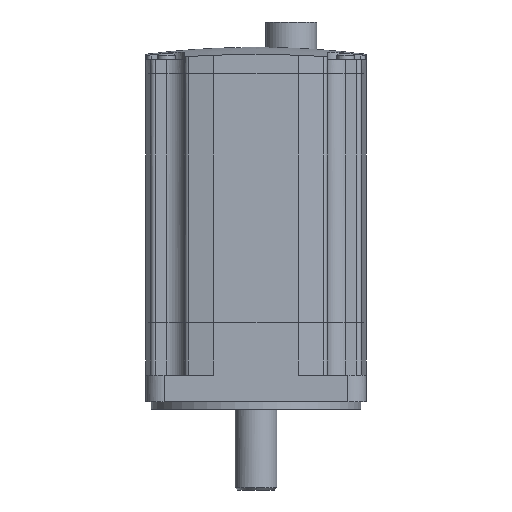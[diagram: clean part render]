
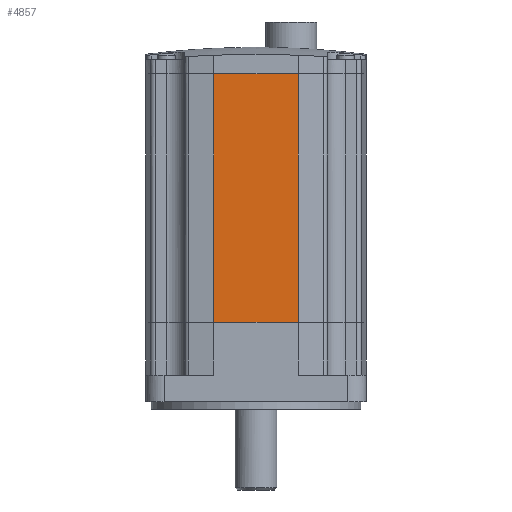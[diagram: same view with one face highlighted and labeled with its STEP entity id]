
A CAD part, front view. The second image highlights one B-rep face of the part: STEP entity #4857.
In plain terms, the highlighted free-form (B-spline) face has degree [1, 1] with [2, 2] control points.
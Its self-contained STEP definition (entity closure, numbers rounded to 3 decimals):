
#4374=CARTESIAN_POINT('',(-148.6,-50.,-19.203));
#4375=VERTEX_POINT('NONE',#4374);
#4382=CARTESIAN_POINT('',(-148.6,-50.,19.203));
#4383=VERTEX_POINT('NONE',#4382);
#4384=CARTESIAN_POINT('',(-148.6,-50.,19.203));
#4385=CARTESIAN_POINT('',(-148.6,-50.,-19.203));
#4386=B_SPLINE_CURVE_WITH_KNOTS('',1,(#4384,#4385),.UNSPECIFIED.,.F.,.F.,(2,2),(0.,38.405),.UNSPECIFIED.);
#4387=EDGE_CURVE('NONE',#4383,#4375,#4386,.T.);
#4511=CARTESIAN_POINT('',(-36.,-50.,19.203));
#4512=VERTEX_POINT('NONE',#4511);
#4519=CARTESIAN_POINT('',(-36.,-50.,-19.203));
#4520=VERTEX_POINT('NONE',#4519);
#4521=CARTESIAN_POINT('',(-36.,-50.,-19.203));
#4522=CARTESIAN_POINT('',(-36.,-50.,19.203));
#4523=B_SPLINE_CURVE_WITH_KNOTS('',1,(#4521,#4522),.UNSPECIFIED.,.F.,.F.,(2,2),(0.,38.405),.UNSPECIFIED.);
#4524=EDGE_CURVE('NONE',#4520,#4512,#4523,.T.);
#4834=CARTESIAN_POINT('',(-148.6,-50.,19.203));
#4835=CARTESIAN_POINT('',(-36.,-50.,19.203));
#4836=B_SPLINE_CURVE_WITH_KNOTS('',1,(#4834,#4835),.UNSPECIFIED.,.F.,.F.,(2,2),(0.,112.6),.UNSPECIFIED.);
#4837=EDGE_CURVE('NONE',#4383,#4512,#4836,.T.);
#4842=CARTESIAN_POINT('',(-148.6,-50.,19.203));
#4843=CARTESIAN_POINT('',(-36.,-50.,19.203));
#4844=CARTESIAN_POINT('',(-148.6,-50.,-19.203));
#4845=CARTESIAN_POINT('',(-36.,-50.,-19.203));
#4846=B_SPLINE_SURFACE_WITH_KNOTS('',1,1,((#4842,#4843),(#4844,#4845)),.UNSPECIFIED.,.F.,.F.,.U.,(2,2),(2,2),(-38.405,0.),(0.,112.6),.UNSPECIFIED.);
#4847=ORIENTED_EDGE('NONE',*,*,#4524,.T.);
#4848=ORIENTED_EDGE('NONE',*,*,#4837,.F.);
#4849=ORIENTED_EDGE('NONE',*,*,#4387,.T.);
#4850=CARTESIAN_POINT('',(-148.6,-50.,-19.203));
#4851=CARTESIAN_POINT('',(-36.,-50.,-19.203));
#4852=B_SPLINE_CURVE_WITH_KNOTS('',1,(#4850,#4851),.UNSPECIFIED.,.F.,.F.,(2,2),(0.,112.6),.UNSPECIFIED.);
#4853=EDGE_CURVE('NONE',#4375,#4520,#4852,.T.);
#4854=ORIENTED_EDGE('NONE',*,*,#4853,.T.);
#4855=EDGE_LOOP('NONE',(#4847,#4848,#4849,#4854));
#4856=FACE_BOUND('',#4855,.T.);
#4857=ADVANCED_FACE('NONE',(#4856),#4846,.T.);
